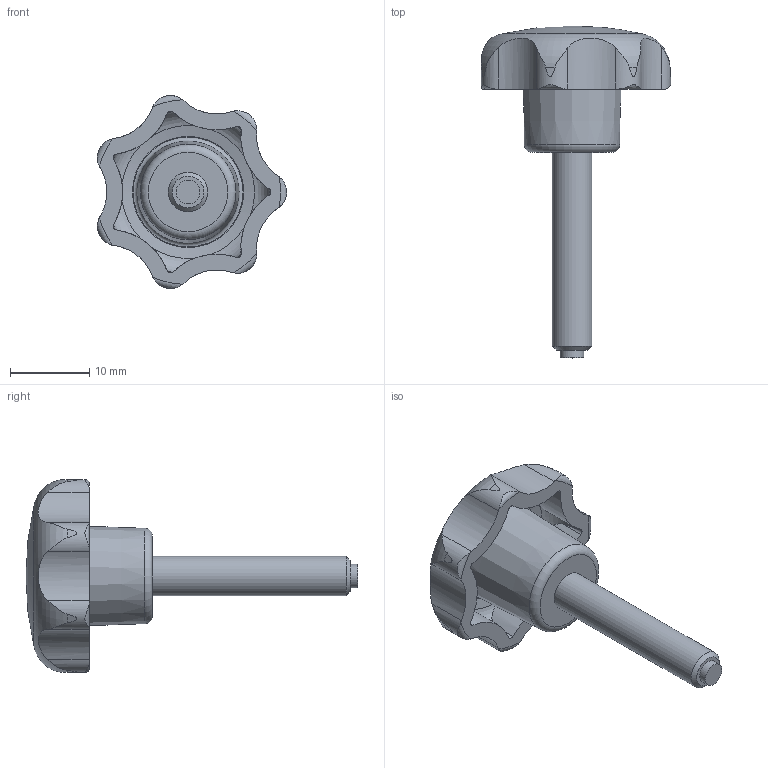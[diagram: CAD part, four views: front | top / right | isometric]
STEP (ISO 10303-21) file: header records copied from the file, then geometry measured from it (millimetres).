
FILE_DESCRIPTION( ( 'STEP AP203' ), '1' );
FILE_NAME( 'C:/Temp/Ganter_Step_05_03_2020/data/2_2/gn6336_10/Star knob GN 6336.10-25-M5-25-KU.stp', '2020-03-05T12:04:19', ( 'License CC BY-ND 4.0' ), ( 'CADENAS' ), ' ', 'PARTsolutions', ' ' );
FILE_SCHEMA( ( 'CONFIG_CONTROL_DESIGN' ) );
Length unit declared in the file: millimetre
Products named in the file (1): _Star knob GN 6336.10-25-M5-25-KU
Bounding box: 23.93 x 42 x 24.42 mm (x, y, z)
Volume: 3600.5 mm3; surface area: 2453.5 mm2
Topology: 1 solids, 1 shells, 70 faces, 194 edges, 128 vertices
Faces by surface type: cylinder 30, torus 18, cone 17, plane 4, sphere 1
Full cylindrical faces by diameter (mm): 3 x1, 5 x1
Entity records: 3018 total; most frequent: CARTESIAN_POINT 1333, ORIENTED_EDGE 358, DIRECTION 318, EDGE_CURVE 179, AXIS2_PLACEMENT_3D 145, VERTEX_POINT 124, EDGE_LOOP 82, B_SPLINE_CURVE_WITH_KNOTS 77
